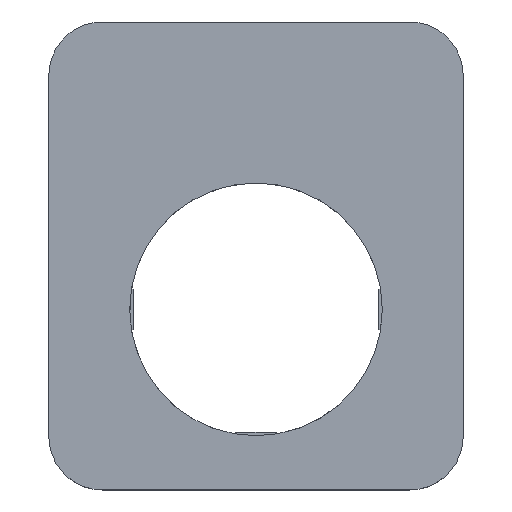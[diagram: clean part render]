
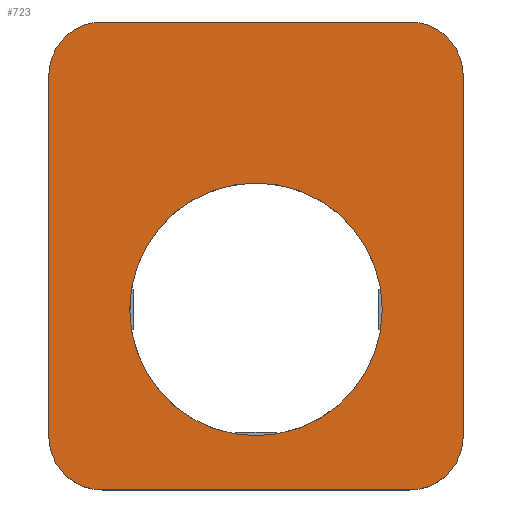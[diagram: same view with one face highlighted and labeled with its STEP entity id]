
A CAD part, top view. The second image highlights one B-rep face of the part: STEP entity #723.
In plain terms, the highlighted planar face has unit normal (0, 0, 1).
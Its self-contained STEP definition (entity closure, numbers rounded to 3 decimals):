
#24 = VERTEX_POINT('',#25);
#25 = CARTESIAN_POINT('',(-23.,-35.,14.8));
#32 = PLANE('',#33);
#33 = AXIS2_PLACEMENT_3D('',#34,#35,#36);
#34 = CARTESIAN_POINT('',(-23.,-35.,2.4));
#35 = DIRECTION('',(0.,1.,0.));
#36 = DIRECTION('',(1.,0.,0.));
#44 = CYLINDRICAL_SURFACE('',#45,8.);
#45 = AXIS2_PLACEMENT_3D('',#46,#47,#48);
#46 = CARTESIAN_POINT('',(-23.,-27.,2.4));
#47 = DIRECTION('',(-0.,-0.,-1.));
#48 = DIRECTION('',(1.,0.,0.));
#56 = EDGE_CURVE('',#24,#57,#59,.T.);
#57 = VERTEX_POINT('',#58);
#58 = CARTESIAN_POINT('',(23.,-35.,14.8));
#59 = SURFACE_CURVE('',#60,(#64,#71),.PCURVE_S1.);
#60 = LINE('',#61,#62);
#61 = CARTESIAN_POINT('',(-23.,-35.,14.8));
#62 = VECTOR('',#63,1.);
#63 = DIRECTION('',(1.,0.,0.));
#64 = PCURVE('',#32,#65);
#65 = DEFINITIONAL_REPRESENTATION('',(#66),#70);
#66 = LINE('',#67,#68);
#67 = CARTESIAN_POINT('',(0.,-12.4));
#68 = VECTOR('',#69,1.);
#69 = DIRECTION('',(1.,0.));
#70 = ( GEOMETRIC_REPRESENTATION_CONTEXT(2) 
PARAMETRIC_REPRESENTATION_CONTEXT() REPRESENTATION_CONTEXT('2D SPACE',''
  ) );
#71 = PCURVE('',#72,#77);
#72 = PLANE('',#73);
#73 = AXIS2_PLACEMENT_3D('',#74,#75,#76);
#74 = CARTESIAN_POINT('',(0.,0.,14.8));
#75 = DIRECTION('',(0.,0.,1.));
#76 = DIRECTION('',(1.,0.,-0.));
#77 = DEFINITIONAL_REPRESENTATION('',(#78),#82);
#78 = LINE('',#79,#80);
#79 = CARTESIAN_POINT('',(-23.,-35.));
#80 = VECTOR('',#81,1.);
#81 = DIRECTION('',(1.,0.));
#82 = ( GEOMETRIC_REPRESENTATION_CONTEXT(2) 
PARAMETRIC_REPRESENTATION_CONTEXT() REPRESENTATION_CONTEXT('2D SPACE',''
  ) );
#100 = CYLINDRICAL_SURFACE('',#101,8.);
#101 = AXIS2_PLACEMENT_3D('',#102,#103,#104);
#102 = CARTESIAN_POINT('',(23.,-27.,2.4));
#103 = DIRECTION('',(-0.,-0.,-1.));
#104 = DIRECTION('',(1.,0.,0.));
#272 = VERTEX_POINT('',#273);
#273 = CARTESIAN_POINT('',(-31.,-27.,14.8));
#287 = PLANE('',#288);
#288 = AXIS2_PLACEMENT_3D('',#289,#290,#291);
#289 = CARTESIAN_POINT('',(-31.,27.,2.4));
#290 = DIRECTION('',(1.,0.,-0.));
#291 = DIRECTION('',(0.,-1.,0.));
#299 = EDGE_CURVE('',#272,#24,#300,.T.);
#300 = SURFACE_CURVE('',#301,(#306,#313),.PCURVE_S1.);
#301 = CIRCLE('',#302,8.);
#302 = AXIS2_PLACEMENT_3D('',#303,#304,#305);
#303 = CARTESIAN_POINT('',(-23.,-27.,14.8));
#304 = DIRECTION('',(0.,0.,1.));
#305 = DIRECTION('',(1.,0.,0.));
#306 = PCURVE('',#44,#307);
#307 = DEFINITIONAL_REPRESENTATION('',(#308),#312);
#308 = LINE('',#309,#310);
#309 = CARTESIAN_POINT('',(-0.,-12.4));
#310 = VECTOR('',#311,1.);
#311 = DIRECTION('',(-1.,0.));
#312 = ( GEOMETRIC_REPRESENTATION_CONTEXT(2) 
PARAMETRIC_REPRESENTATION_CONTEXT() REPRESENTATION_CONTEXT('2D SPACE',''
  ) );
#313 = PCURVE('',#72,#314);
#314 = DEFINITIONAL_REPRESENTATION('',(#315),#319);
#315 = CIRCLE('',#316,8.);
#316 = AXIS2_PLACEMENT_2D('',#317,#318);
#317 = CARTESIAN_POINT('',(-23.,-27.));
#318 = DIRECTION('',(1.,0.));
#319 = ( GEOMETRIC_REPRESENTATION_CONTEXT(2) 
PARAMETRIC_REPRESENTATION_CONTEXT() REPRESENTATION_CONTEXT('2D SPACE',''
  ) );
#390 = PLANE('',#391);
#391 = AXIS2_PLACEMENT_3D('',#392,#393,#394);
#392 = CARTESIAN_POINT('',(31.,-27.,2.4));
#393 = DIRECTION('',(-1.,0.,0.));
#394 = DIRECTION('',(0.,1.,0.));
#419 = CYLINDRICAL_SURFACE('',#420,8.);
#420 = AXIS2_PLACEMENT_3D('',#421,#422,#423);
#421 = CARTESIAN_POINT('',(23.,27.,2.4));
#422 = DIRECTION('',(-0.,-0.,-1.));
#423 = DIRECTION('',(1.,0.,0.));
#447 = PLANE('',#448);
#448 = AXIS2_PLACEMENT_3D('',#449,#450,#451);
#449 = CARTESIAN_POINT('',(23.,35.,2.4));
#450 = DIRECTION('',(0.,-1.,0.));
#451 = DIRECTION('',(-1.,0.,0.));
#474 = CYLINDRICAL_SURFACE('',#475,8.);
#475 = AXIS2_PLACEMENT_3D('',#476,#477,#478);
#476 = CARTESIAN_POINT('',(-23.,27.,2.4));
#477 = DIRECTION('',(-0.,-0.,-1.));
#478 = DIRECTION('',(1.,0.,0.));
#723 = ADVANCED_FACE('',(#724,#867),#72,.T.);
#724 = FACE_BOUND('',#725,.T.);
#725 = EDGE_LOOP('',(#726,#749,#750,#751,#775,#798,#822,#845));
#726 = ORIENTED_EDGE('',*,*,#727,.T.);
#727 = EDGE_CURVE('',#728,#272,#730,.T.);
#728 = VERTEX_POINT('',#729);
#729 = CARTESIAN_POINT('',(-31.,27.,14.8));
#730 = SURFACE_CURVE('',#731,(#735,#742),.PCURVE_S1.);
#731 = LINE('',#732,#733);
#732 = CARTESIAN_POINT('',(-31.,27.,14.8));
#733 = VECTOR('',#734,1.);
#734 = DIRECTION('',(0.,-1.,0.));
#735 = PCURVE('',#72,#736);
#736 = DEFINITIONAL_REPRESENTATION('',(#737),#741);
#737 = LINE('',#738,#739);
#738 = CARTESIAN_POINT('',(-31.,27.));
#739 = VECTOR('',#740,1.);
#740 = DIRECTION('',(0.,-1.));
#741 = ( GEOMETRIC_REPRESENTATION_CONTEXT(2) 
PARAMETRIC_REPRESENTATION_CONTEXT() REPRESENTATION_CONTEXT('2D SPACE',''
  ) );
#742 = PCURVE('',#287,#743);
#743 = DEFINITIONAL_REPRESENTATION('',(#744),#748);
#744 = LINE('',#745,#746);
#745 = CARTESIAN_POINT('',(0.,-12.4));
#746 = VECTOR('',#747,1.);
#747 = DIRECTION('',(1.,0.));
#748 = ( GEOMETRIC_REPRESENTATION_CONTEXT(2) 
PARAMETRIC_REPRESENTATION_CONTEXT() REPRESENTATION_CONTEXT('2D SPACE',''
  ) );
#749 = ORIENTED_EDGE('',*,*,#299,.T.);
#750 = ORIENTED_EDGE('',*,*,#56,.T.);
#751 = ORIENTED_EDGE('',*,*,#752,.T.);
#752 = EDGE_CURVE('',#57,#753,#755,.T.);
#753 = VERTEX_POINT('',#754);
#754 = CARTESIAN_POINT('',(31.,-27.,14.8));
#755 = SURFACE_CURVE('',#756,(#761,#768),.PCURVE_S1.);
#756 = CIRCLE('',#757,8.);
#757 = AXIS2_PLACEMENT_3D('',#758,#759,#760);
#758 = CARTESIAN_POINT('',(23.,-27.,14.8));
#759 = DIRECTION('',(0.,0.,1.));
#760 = DIRECTION('',(1.,0.,0.));
#761 = PCURVE('',#72,#762);
#762 = DEFINITIONAL_REPRESENTATION('',(#763),#767);
#763 = CIRCLE('',#764,8.);
#764 = AXIS2_PLACEMENT_2D('',#765,#766);
#765 = CARTESIAN_POINT('',(23.,-27.));
#766 = DIRECTION('',(1.,0.));
#767 = ( GEOMETRIC_REPRESENTATION_CONTEXT(2) 
PARAMETRIC_REPRESENTATION_CONTEXT() REPRESENTATION_CONTEXT('2D SPACE',''
  ) );
#768 = PCURVE('',#100,#769);
#769 = DEFINITIONAL_REPRESENTATION('',(#770),#774);
#770 = LINE('',#771,#772);
#771 = CARTESIAN_POINT('',(-0.,-12.4));
#772 = VECTOR('',#773,1.);
#773 = DIRECTION('',(-1.,0.));
#774 = ( GEOMETRIC_REPRESENTATION_CONTEXT(2) 
PARAMETRIC_REPRESENTATION_CONTEXT() REPRESENTATION_CONTEXT('2D SPACE',''
  ) );
#775 = ORIENTED_EDGE('',*,*,#776,.T.);
#776 = EDGE_CURVE('',#753,#777,#779,.T.);
#777 = VERTEX_POINT('',#778);
#778 = CARTESIAN_POINT('',(31.,27.,14.8));
#779 = SURFACE_CURVE('',#780,(#784,#791),.PCURVE_S1.);
#780 = LINE('',#781,#782);
#781 = CARTESIAN_POINT('',(31.,-27.,14.8));
#782 = VECTOR('',#783,1.);
#783 = DIRECTION('',(0.,1.,0.));
#784 = PCURVE('',#72,#785);
#785 = DEFINITIONAL_REPRESENTATION('',(#786),#790);
#786 = LINE('',#787,#788);
#787 = CARTESIAN_POINT('',(31.,-27.));
#788 = VECTOR('',#789,1.);
#789 = DIRECTION('',(0.,1.));
#790 = ( GEOMETRIC_REPRESENTATION_CONTEXT(2) 
PARAMETRIC_REPRESENTATION_CONTEXT() REPRESENTATION_CONTEXT('2D SPACE',''
  ) );
#791 = PCURVE('',#390,#792);
#792 = DEFINITIONAL_REPRESENTATION('',(#793),#797);
#793 = LINE('',#794,#795);
#794 = CARTESIAN_POINT('',(0.,-12.4));
#795 = VECTOR('',#796,1.);
#796 = DIRECTION('',(1.,0.));
#797 = ( GEOMETRIC_REPRESENTATION_CONTEXT(2) 
PARAMETRIC_REPRESENTATION_CONTEXT() REPRESENTATION_CONTEXT('2D SPACE',''
  ) );
#798 = ORIENTED_EDGE('',*,*,#799,.T.);
#799 = EDGE_CURVE('',#777,#800,#802,.T.);
#800 = VERTEX_POINT('',#801);
#801 = CARTESIAN_POINT('',(23.,35.,14.8));
#802 = SURFACE_CURVE('',#803,(#808,#815),.PCURVE_S1.);
#803 = CIRCLE('',#804,8.);
#804 = AXIS2_PLACEMENT_3D('',#805,#806,#807);
#805 = CARTESIAN_POINT('',(23.,27.,14.8));
#806 = DIRECTION('',(0.,0.,1.));
#807 = DIRECTION('',(1.,0.,0.));
#808 = PCURVE('',#72,#809);
#809 = DEFINITIONAL_REPRESENTATION('',(#810),#814);
#810 = CIRCLE('',#811,8.);
#811 = AXIS2_PLACEMENT_2D('',#812,#813);
#812 = CARTESIAN_POINT('',(23.,27.));
#813 = DIRECTION('',(1.,0.));
#814 = ( GEOMETRIC_REPRESENTATION_CONTEXT(2) 
PARAMETRIC_REPRESENTATION_CONTEXT() REPRESENTATION_CONTEXT('2D SPACE',''
  ) );
#815 = PCURVE('',#419,#816);
#816 = DEFINITIONAL_REPRESENTATION('',(#817),#821);
#817 = LINE('',#818,#819);
#818 = CARTESIAN_POINT('',(-0.,-12.4));
#819 = VECTOR('',#820,1.);
#820 = DIRECTION('',(-1.,0.));
#821 = ( GEOMETRIC_REPRESENTATION_CONTEXT(2) 
PARAMETRIC_REPRESENTATION_CONTEXT() REPRESENTATION_CONTEXT('2D SPACE',''
  ) );
#822 = ORIENTED_EDGE('',*,*,#823,.T.);
#823 = EDGE_CURVE('',#800,#824,#826,.T.);
#824 = VERTEX_POINT('',#825);
#825 = CARTESIAN_POINT('',(-23.,35.,14.8));
#826 = SURFACE_CURVE('',#827,(#831,#838),.PCURVE_S1.);
#827 = LINE('',#828,#829);
#828 = CARTESIAN_POINT('',(23.,35.,14.8));
#829 = VECTOR('',#830,1.);
#830 = DIRECTION('',(-1.,0.,0.));
#831 = PCURVE('',#72,#832);
#832 = DEFINITIONAL_REPRESENTATION('',(#833),#837);
#833 = LINE('',#834,#835);
#834 = CARTESIAN_POINT('',(23.,35.));
#835 = VECTOR('',#836,1.);
#836 = DIRECTION('',(-1.,0.));
#837 = ( GEOMETRIC_REPRESENTATION_CONTEXT(2) 
PARAMETRIC_REPRESENTATION_CONTEXT() REPRESENTATION_CONTEXT('2D SPACE',''
  ) );
#838 = PCURVE('',#447,#839);
#839 = DEFINITIONAL_REPRESENTATION('',(#840),#844);
#840 = LINE('',#841,#842);
#841 = CARTESIAN_POINT('',(0.,-12.4));
#842 = VECTOR('',#843,1.);
#843 = DIRECTION('',(1.,0.));
#844 = ( GEOMETRIC_REPRESENTATION_CONTEXT(2) 
PARAMETRIC_REPRESENTATION_CONTEXT() REPRESENTATION_CONTEXT('2D SPACE',''
  ) );
#845 = ORIENTED_EDGE('',*,*,#846,.T.);
#846 = EDGE_CURVE('',#824,#728,#847,.T.);
#847 = SURFACE_CURVE('',#848,(#853,#860),.PCURVE_S1.);
#848 = CIRCLE('',#849,8.);
#849 = AXIS2_PLACEMENT_3D('',#850,#851,#852);
#850 = CARTESIAN_POINT('',(-23.,27.,14.8));
#851 = DIRECTION('',(0.,0.,1.));
#852 = DIRECTION('',(1.,0.,0.));
#853 = PCURVE('',#72,#854);
#854 = DEFINITIONAL_REPRESENTATION('',(#855),#859);
#855 = CIRCLE('',#856,8.);
#856 = AXIS2_PLACEMENT_2D('',#857,#858);
#857 = CARTESIAN_POINT('',(-23.,27.));
#858 = DIRECTION('',(1.,0.));
#859 = ( GEOMETRIC_REPRESENTATION_CONTEXT(2) 
PARAMETRIC_REPRESENTATION_CONTEXT() REPRESENTATION_CONTEXT('2D SPACE',''
  ) );
#860 = PCURVE('',#474,#861);
#861 = DEFINITIONAL_REPRESENTATION('',(#862),#866);
#862 = LINE('',#863,#864);
#863 = CARTESIAN_POINT('',(-0.,-12.4));
#864 = VECTOR('',#865,1.);
#865 = DIRECTION('',(-1.,0.));
#866 = ( GEOMETRIC_REPRESENTATION_CONTEXT(2) 
PARAMETRIC_REPRESENTATION_CONTEXT() REPRESENTATION_CONTEXT('2D SPACE',''
  ) );
#867 = FACE_BOUND('',#868,.T.);
#868 = EDGE_LOOP('',(#869));
#869 = ORIENTED_EDGE('',*,*,#870,.T.);
#870 = EDGE_CURVE('',#871,#871,#873,.T.);
#871 = VERTEX_POINT('',#872);
#872 = CARTESIAN_POINT('',(18.9,-8.,14.8));
#873 = SURFACE_CURVE('',#874,(#879,#890),.PCURVE_S1.);
#874 = CIRCLE('',#875,18.9);
#875 = AXIS2_PLACEMENT_3D('',#876,#877,#878);
#876 = CARTESIAN_POINT('',(0.,-8.,14.8));
#877 = DIRECTION('',(0.,0.,-1.));
#878 = DIRECTION('',(1.,0.,0.));
#879 = PCURVE('',#72,#880);
#880 = DEFINITIONAL_REPRESENTATION('',(#881),#889);
#881 = ( BOUNDED_CURVE() B_SPLINE_CURVE(2,(#882,#883,#884,#885,#886,#887
,#888),.UNSPECIFIED.,.T.,.F.) B_SPLINE_CURVE_WITH_KNOTS((1,2,2,2,2,1),(
    -2.094,0.,2.094,4.189,6.283,
8.378),.UNSPECIFIED.) CURVE() GEOMETRIC_REPRESENTATION_ITEM() 
RATIONAL_B_SPLINE_CURVE((1.,0.5,1.,0.5,1.,0.5,1.)) REPRESENTATION_ITEM(
  '') );
#882 = CARTESIAN_POINT('',(18.9,-8.));
#883 = CARTESIAN_POINT('',(18.9,-40.736));
#884 = CARTESIAN_POINT('',(-9.45,-24.368));
#885 = CARTESIAN_POINT('',(-37.8,-8.));
#886 = CARTESIAN_POINT('',(-9.45,8.368));
#887 = CARTESIAN_POINT('',(18.9,24.736));
#888 = CARTESIAN_POINT('',(18.9,-8.));
#889 = ( GEOMETRIC_REPRESENTATION_CONTEXT(2) 
PARAMETRIC_REPRESENTATION_CONTEXT() REPRESENTATION_CONTEXT('2D SPACE',''
  ) );
#890 = PCURVE('',#891,#896);
#891 = CYLINDRICAL_SURFACE('',#892,18.9);
#892 = AXIS2_PLACEMENT_3D('',#893,#894,#895);
#893 = CARTESIAN_POINT('',(0.,-8.,12.5));
#894 = DIRECTION('',(-0.,-0.,-1.));
#895 = DIRECTION('',(1.,0.,0.));
#896 = DEFINITIONAL_REPRESENTATION('',(#897),#901);
#897 = LINE('',#898,#899);
#898 = CARTESIAN_POINT('',(-6.283,-2.3));
#899 = VECTOR('',#900,1.);
#900 = DIRECTION('',(1.,-0.));
#901 = ( GEOMETRIC_REPRESENTATION_CONTEXT(2) 
PARAMETRIC_REPRESENTATION_CONTEXT() REPRESENTATION_CONTEXT('2D SPACE',''
  ) );
